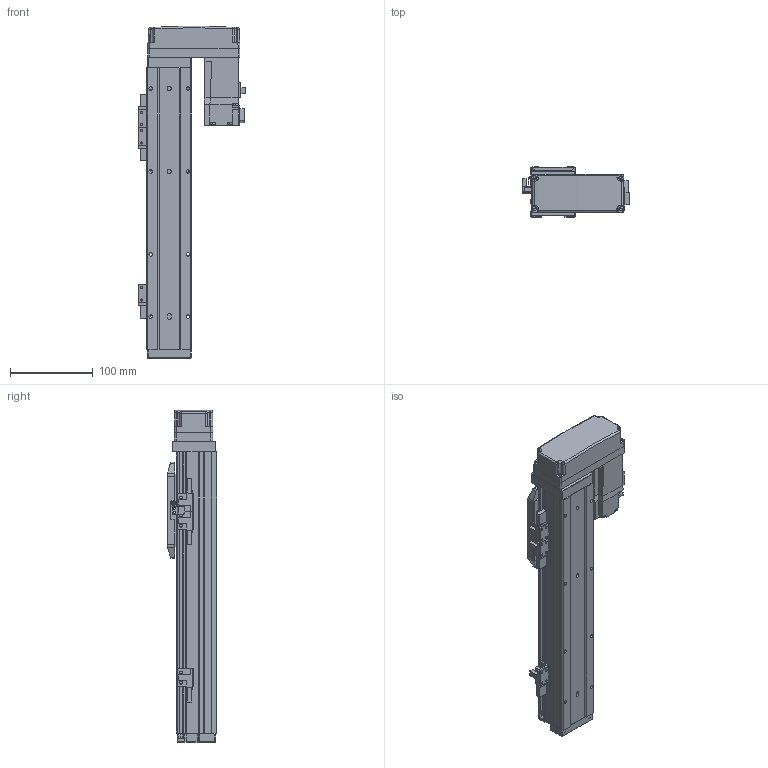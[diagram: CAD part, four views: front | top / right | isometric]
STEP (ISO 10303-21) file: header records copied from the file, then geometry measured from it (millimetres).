
FILE_DESCRIPTION (( 'STEP AP214' ), '1' );
FILE_NAME ('N_GRH5-200-BL-M10.step', '2025-03-14T09:45:19', ( '' ), ( '' ), 'SwSTEP 2.0', 'SolidWorks 2016', '' );
FILE_SCHEMA (( 'AUTOMOTIVE_DESIGN' ));
Length unit declared in the file: millimetre
Products named in the file (5): N_GRH5-200-BL-M10; N_GRH5-GY-011^N_GRH5-200-BL-M10; HF-KP13_100W_Motor^N_GRH5-200-BL-M10; N_GRH5-BL-008^N_GRH5-200-BL-M10; N_GRH5-GY-004^N_GRH5-200-BL-M10
Assembly tree (4 placements, depth 2):
  N_GRH5-200-BL-M10
    N_GRH5-GY-011^N_GRH5-200-BL-M10
    N_GRH5-GY-004^N_GRH5-200-BL-M10
    HF-KP13_100W_Motor^N_GRH5-200-BL-M10
    N_GRH5-BL-008^N_GRH5-200-BL-M10
Bounding box: 128.85 x 60 x 400.5 mm (x, y, z)
Volume: 977946.6 mm3; surface area: 230225.5 mm2
Topology: 4 solids, 5 shells, 894 faces, 2304 edges, 1465 vertices
Faces by surface type: plane 549, cylinder 290, cone 30, bspline 15, sphere 10
Entity records: 34213 total; most frequent: CARTESIAN_POINT 5501, DIRECTION 4593, ORIENTED_EDGE 4560, EDGE_CURVE 2280, LINE 1607, VECTOR 1607, AXIS2_PLACEMENT_3D 1493, VERTEX_POINT 1463
